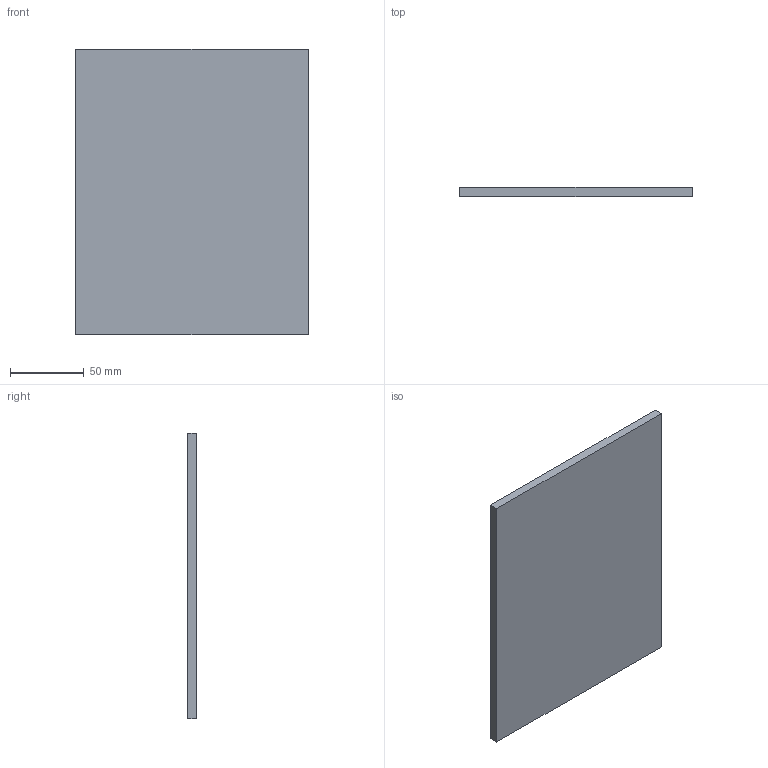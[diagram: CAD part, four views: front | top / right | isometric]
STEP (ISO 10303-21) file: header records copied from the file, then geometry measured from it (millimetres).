
FILE_DESCRIPTION (( 'STEP AP203' ), '1' );
FILE_NAME ('Asyril_INTERNAL DIFFUSING PLATE KIT - 240_000.101.057_(option).step', '2017-07-05T11:56:45', ( 'Standard' ), ( '' ), 'SwSTEP 2.0', 'SolidWorks 2016', '' );
FILE_SCHEMA (( 'CONFIG_CONTROL_DESIGN' ));
Length unit declared in the file: millimetre
Products named in the file (1): Asyril_INTERNAL DIFFUSING PLATE KIT - 240_000.101.057_(option)
Bounding box: 158 x 6 x 194 mm (x, y, z)
Volume: 183912 mm3; surface area: 65528 mm2
Topology: 1 solids, 1 shells, 6 faces, 12 edges, 8 vertices
Faces by surface type: plane 6
Entity records: 233 total; most frequent: CARTESIAN_POINT 27, DIRECTION 26, ORIENTED_EDGE 24, VECTOR 12, LINE 12, EDGE_CURVE 12, PERSON_AND_ORGANIZATION 8, VERTEX_POINT 8
